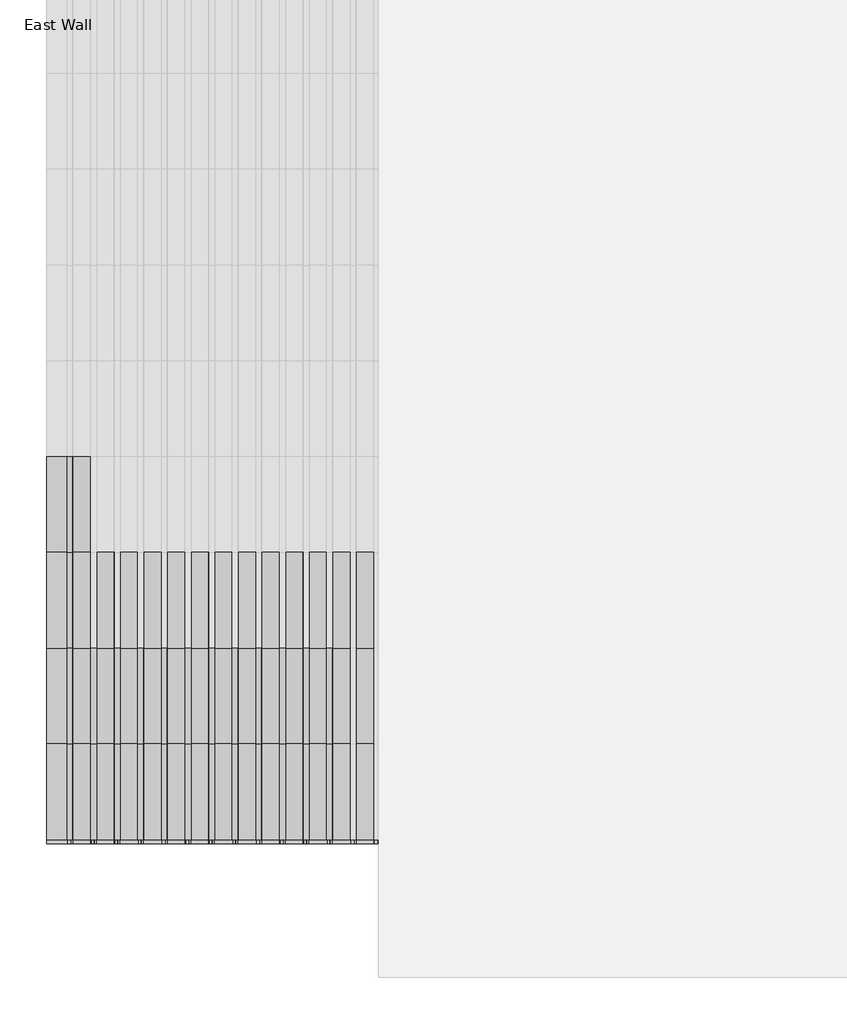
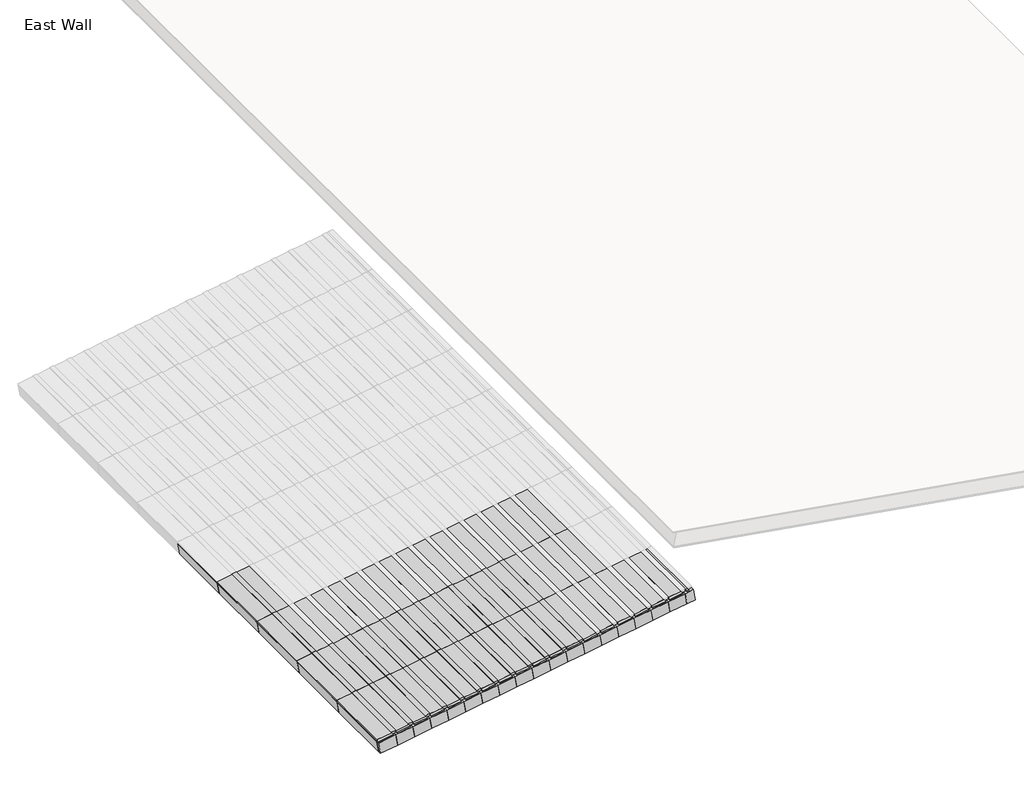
# One storey, part 1 of 5: 72 plates, 50 members.
"""IFC4 building model written with IfcOpenShell, lengths in millimetres."""

from ifc_helpers import new_model, si_unit, origin, place, context, project, spatial, transform, mapped, element, save
from components import rectangular_mullion_fascia_9a07afea, rectangular_mullion_fascia_2a1c65a7, rectangular_mullion_fascia_b76e3948, rectangular_mullion_wood_slats_095afc73, system_panel_empty_9ec88690, system_panel_empty_e91cd120, system_panel_empty_25c6223c, system_panel_empty_b4032a90, system_panel_empty_0b0c6d62, system_panel_empty_946fc833

model = new_model("IFC4")

# Units and contexts
model_context = context("Model", 3, world=origin())
ifc_project = project(units=[si_unit("LENGTHUNIT", "METRE", prefix="MILLI")], contexts=[model_context])

# Site, building, storey
site = spatial("IfcSite", under=ifc_project)
building = spatial("IfcBuilding", under=site)
storey = spatial("IfcBuildingStorey", under=building, Name="East Wall", Elevation=3657.6)

# Members
placement = place(None, origin())
rectangular_mullion_fascia_shape = rectangular_mullion_fascia_9a07afea(model_context)
element("IfcMember", 1, ObjectType="Rectangular Mullion : Fascia", at=placement, inside=storey, context=model_context, shape_type="MappedRepresentation", body=[
    mapped(rectangular_mullion_fascia_shape, transform((9705.6989802, 5896.6499281, 3044.5915776), x_axis=(-0.9863939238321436, 0.0, -0.16439898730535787), y_axis=(0.16439898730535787, 0.0, -0.9863939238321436), z_axis=(0.0, -1.0, 0.0))),
])
element("IfcMember", 2, ObjectType="Rectangular Mullion : Fascia", at=placement, inside=storey, context=model_context, shape_type="MappedRepresentation", body=[
    mapped(rectangular_mullion_fascia_shape, transform((9705.6989802, 5287.0499281, 3044.5915776), x_axis=(-0.9863939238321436, 0.0, -0.16439898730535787), y_axis=(0.16439898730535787, 0.0, -0.9863939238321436), z_axis=(0.0, -1.0, 0.0))),
])
element("IfcMember", 3, ObjectType="Rectangular Mullion : Fascia", at=placement, inside=storey, context=model_context, shape_type="MappedRepresentation", body=[
    mapped(rectangular_mullion_fascia_shape, transform((9705.6989802, 4677.4499281, 3044.5915776), x_axis=(-0.9863939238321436, 0.0, -0.16439898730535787), y_axis=(0.16439898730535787, 0.0, -0.9863939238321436), z_axis=(0.0, -1.0, 0.0))),
])
element("IfcMember", 4, ObjectType="Rectangular Mullion : Fascia", at=placement, inside=storey, context=model_context, shape_type="MappedRepresentation", body=[
    mapped(rectangular_mullion_fascia_shape, transform((9705.6989802, 4067.8499281, 3044.5915776), x_axis=(-0.9863939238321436, 0.0, -0.16439898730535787), y_axis=(0.16439898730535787, 0.0, -0.9863939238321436), z_axis=(0.0, -1.0, 0.0))),
])
element("IfcMember", 5, ObjectType="Rectangular Mullion : Fascia", at=placement, inside=storey, context=model_context, shape_type="MappedRepresentation", body=[
    mapped(rectangular_mullion_fascia_shape, transform((9705.6989802, 3458.2499281, 3044.5915776), x_axis=(-0.9863939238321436, 0.0, -0.16439898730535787), y_axis=(0.16439898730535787, 0.0, -0.9863939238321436), z_axis=(0.0, -1.0, 0.0))),
])
rectangular_mullion_fascia_2_shape = rectangular_mullion_fascia_2a1c65a7(model_context)
element("IfcMember", 6, ObjectType="Rectangular Mullion : Fascia", at=placement, inside=storey, context=model_context, shape_type="MappedRepresentation", body=[
    mapped(rectangular_mullion_fascia_2_shape, transform((9856.0254142, 3432.8499284, 3069.6459833), x_axis=(0.0, -1.0, 0.0), y_axis=(0.1643989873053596, 0.0, -0.9863939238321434), z_axis=(0.9863939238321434, 0.0, 0.1643989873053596))),
])
element("IfcMember", 7, ObjectType="Rectangular Mullion : Fascia", at=placement, inside=storey, context=model_context, shape_type="MappedRepresentation", body=[
    mapped(rectangular_mullion_fascia_2_shape, transform((10006.3518482, 3432.8499284, 3094.700389), x_axis=(0.0, -1.0, 0.0), y_axis=(0.164398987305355, 0.0, -0.9863939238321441), z_axis=(0.9863939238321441, 0.0, 0.164398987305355))),
])
element("IfcMember", 8, ObjectType="Rectangular Mullion : Fascia", at=placement, inside=storey, context=model_context, shape_type="MappedRepresentation", body=[
    mapped(rectangular_mullion_fascia_2_shape, transform((10156.6782822, 3432.8499284, 3119.7547946), x_axis=(0.0, -1.0, 0.0), y_axis=(0.16439898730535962, 0.0, -0.9863939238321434), z_axis=(0.9863939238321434, 0.0, 0.16439898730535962))),
])
element("IfcMember", 9, ObjectType="Rectangular Mullion : Fascia", at=placement, inside=storey, context=model_context, shape_type="MappedRepresentation", body=[
    mapped(rectangular_mullion_fascia_2_shape, transform((10307.0047162, 3432.8499284, 3144.8092003), x_axis=(0.0, -1.0, 0.0), y_axis=(0.16439898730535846, 0.0, -0.9863939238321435), z_axis=(0.9863939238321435, 0.0, 0.16439898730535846))),
])
element("IfcMember", 10, ObjectType="Rectangular Mullion : Fascia", at=placement, inside=storey, context=model_context, shape_type="MappedRepresentation", body=[
    mapped(rectangular_mullion_fascia_2_shape, transform((10457.3311502, 3432.8499284, 3169.863606), x_axis=(0.0, -1.0, 0.0), y_axis=(0.16439898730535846, 0.0, -0.9863939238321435), z_axis=(0.9863939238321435, 0.0, 0.16439898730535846))),
])
element("IfcMember", 11, ObjectType="Rectangular Mullion : Fascia", at=placement, inside=storey, context=model_context, shape_type="MappedRepresentation", body=[
    mapped(rectangular_mullion_fascia_2_shape, transform((10607.6575842, 3432.8499284, 3194.9180116), x_axis=(0.0, -1.0, 0.0), y_axis=(0.16439898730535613, 0.0, -0.9863939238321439), z_axis=(0.9863939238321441, 0.0, 0.16439898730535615))),
])
element("IfcMember", 12, ObjectType="Rectangular Mullion : Fascia", at=placement, inside=storey, context=model_context, shape_type="MappedRepresentation", body=[
    mapped(rectangular_mullion_fascia_2_shape, transform((10757.9840182, 3432.8499284, 3219.9724173), x_axis=(0.0, -1.0, 0.0), y_axis=(0.16439898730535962, 0.0, -0.9863939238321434), z_axis=(0.9863939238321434, 0.0, 0.16439898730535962))),
])
element("IfcMember", 13, ObjectType="Rectangular Mullion : Fascia", at=placement, inside=storey, context=model_context, shape_type="MappedRepresentation", body=[
    mapped(rectangular_mullion_fascia_2_shape, transform((10908.3104522, 3432.8499284, 3245.026823), x_axis=(0.0, -1.0, 0.0), y_axis=(0.164398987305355, 0.0, -0.9863939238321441), z_axis=(0.9863939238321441, 0.0, 0.164398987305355))),
])
element("IfcMember", 14, ObjectType="Rectangular Mullion : Fascia", at=placement, inside=storey, context=model_context, shape_type="MappedRepresentation", body=[
    mapped(rectangular_mullion_fascia_2_shape, transform((11058.6368862, 3432.8499284, 3270.0812286), x_axis=(0.0, -1.0, 0.0), y_axis=(0.16439898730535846, 0.0, -0.9863939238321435), z_axis=(0.9863939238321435, 0.0, 0.16439898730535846))),
])
element("IfcMember", 15, ObjectType="Rectangular Mullion : Fascia", at=placement, inside=storey, context=model_context, shape_type="MappedRepresentation", body=[
    mapped(rectangular_mullion_fascia_2_shape, transform((11208.9633201, 3432.8499284, 3295.1356343), x_axis=(0.0, -1.0, 0.0), y_axis=(0.16439898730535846, 0.0, -0.9863939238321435), z_axis=(0.9863939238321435, 0.0, 0.16439898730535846))),
])
element("IfcMember", 16, ObjectType="Rectangular Mullion : Fascia", at=placement, inside=storey, context=model_context, shape_type="MappedRepresentation", body=[
    mapped(rectangular_mullion_fascia_2_shape, transform((11359.2897541, 3432.8499284, 3320.19004), x_axis=(0.0, -1.0, 0.0), y_axis=(0.16439898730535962, 0.0, -0.9863939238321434), z_axis=(0.9863939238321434, 0.0, 0.16439898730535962))),
])
element("IfcMember", 17, ObjectType="Rectangular Mullion : Fascia", at=placement, inside=storey, context=model_context, shape_type="MappedRepresentation", body=[
    mapped(rectangular_mullion_fascia_2_shape, transform((11509.6161881, 3432.8499284, 3345.2444456), x_axis=(0.0, -1.0, 0.0), y_axis=(0.164398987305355, 0.0, -0.9863939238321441), z_axis=(0.9863939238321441, 0.0, 0.164398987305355))),
])
element("IfcMember", 18, ObjectType="Rectangular Mullion : Fascia", at=placement, inside=storey, context=model_context, shape_type="MappedRepresentation", body=[
    mapped(rectangular_mullion_fascia_2_shape, transform((11659.9426221, 3432.8499284, 3370.2988513), x_axis=(0.0, -1.0, 0.0), y_axis=(0.16439898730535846, 0.0, -0.9863939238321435), z_axis=(0.9863939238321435, 0.0, 0.16439898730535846))),
])
element("IfcMember", 19, ObjectType="Rectangular Mullion : Fascia", at=placement, inside=storey, context=model_context, shape_type="MappedRepresentation", body=[
    mapped(rectangular_mullion_fascia_2_shape, transform((11810.2690561, 3432.8499284, 3395.353257), x_axis=(0.0, -1.0, 0.0), y_axis=(0.16439898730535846, 0.0, -0.9863939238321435), z_axis=(0.9863939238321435, 0.0, 0.16439898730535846))),
])
element("IfcMember", 20, ObjectType="Rectangular Mullion : Fascia", at=placement, inside=storey, context=model_context, shape_type="MappedRepresentation", body=[
    mapped(rectangular_mullion_fascia_2_shape, transform((11960.5954901, 3432.8499284, 3420.4076626), x_axis=(0.0, -1.0, 0.0), y_axis=(0.16439898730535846, 0.0, -0.9863939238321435), z_axis=(0.9863939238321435, 0.0, 0.16439898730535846))),
])
element("IfcMember", 21, ObjectType="Rectangular Mullion : Fascia", at=placement, inside=storey, context=model_context, shape_type="MappedRepresentation", body=[
    mapped(rectangular_mullion_fascia_2_shape, transform((12110.9219241, 3432.8499284, 3445.4620683), x_axis=(0.0, -1.0, 0.0), y_axis=(0.16439898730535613, 0.0, -0.9863939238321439), z_axis=(0.9863939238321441, 0.0, 0.16439898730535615))),
])
element("IfcMember", 22, ObjectType="Rectangular Mullion : Fascia", at=placement, inside=storey, context=model_context, shape_type="MappedRepresentation", body=[
    mapped(rectangular_mullion_fascia_2_shape, transform((12261.2483581, 3432.8499284, 3470.516474), x_axis=(0.0, -1.0, 0.0), y_axis=(0.16439898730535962, 0.0, -0.9863939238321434), z_axis=(0.9863939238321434, 0.0, 0.16439898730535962))),
])
element("IfcMember", 23, ObjectType="Rectangular Mullion : Fascia", at=placement, inside=storey, context=model_context, shape_type="MappedRepresentation", body=[
    mapped(rectangular_mullion_fascia_2_shape, transform((12411.5747921, 3432.8499284, 3495.5708796), x_axis=(0.0, -1.0, 0.0), y_axis=(0.16439898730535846, 0.0, -0.9863939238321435), z_axis=(0.9863939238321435, 0.0, 0.16439898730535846))),
])
rectangular_mullion_fascia_3_shape = rectangular_mullion_fascia_b76e3948(model_context)
element("IfcMember", 24, ObjectType="Rectangular Mullion : Fascia", at=placement, inside=storey, context=model_context, shape_type="MappedRepresentation", body=[
    mapped(rectangular_mullion_fascia_3_shape, transform((12485.7750833, 3432.8499284, 3507.9375948), x_axis=(0.0, -1.0, 0.0), y_axis=(0.1643989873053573, 0.0, -0.9863939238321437), z_axis=(0.9863939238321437, 0.0, 0.1643989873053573))),
])
rectangular_mullion_wood_slats_shape = rectangular_mullion_wood_slats_095afc73(model_context)
element("IfcMember", 25, ObjectType="Rectangular Mullion : Wood Slats", at=placement, inside=storey, context=model_context, shape_type="MappedRepresentation", body=[
    mapped(rectangular_mullion_wood_slats_shape, transform((9856.0254142, 5896.6499281, 3069.6459833), x_axis=(0.9863939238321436, 0.0, 0.16439898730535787), y_axis=(0.16439898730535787, 0.0, -0.9863939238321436), z_axis=(0.0, 1.0, 0.0))),
])
element("IfcMember", 26, ObjectType="Rectangular Mullion : Wood Slats", at=placement, inside=storey, context=model_context, shape_type="MappedRepresentation", body=[
    mapped(rectangular_mullion_wood_slats_shape, transform((9856.0254142, 5287.0499281, 3069.6459833), x_axis=(0.9863939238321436, 0.0, 0.16439898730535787), y_axis=(0.16439898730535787, 0.0, -0.9863939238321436), z_axis=(0.0, 1.0, 0.0))),
])
element("IfcMember", 27, ObjectType="Rectangular Mullion : Wood Slats", at=placement, inside=storey, context=model_context, shape_type="MappedRepresentation", body=[
    mapped(rectangular_mullion_wood_slats_shape, transform((9856.0254142, 4677.4499281, 3069.6459833), x_axis=(0.9863939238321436, 0.0, 0.16439898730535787), y_axis=(0.16439898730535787, 0.0, -0.9863939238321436), z_axis=(0.0, 1.0, 0.0))),
])
element("IfcMember", 28, ObjectType="Rectangular Mullion : Wood Slats", at=placement, inside=storey, context=model_context, shape_type="MappedRepresentation", body=[
    mapped(rectangular_mullion_wood_slats_shape, transform((9856.0254142, 4067.8499281, 3069.6459833), x_axis=(0.9863939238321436, 0.0, 0.16439898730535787), y_axis=(0.16439898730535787, 0.0, -0.9863939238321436), z_axis=(0.0, 1.0, 0.0))),
])
element("IfcMember", 29, ObjectType="Rectangular Mullion : Wood Slats", at=placement, inside=storey, context=model_context, shape_type="MappedRepresentation", body=[
    mapped(rectangular_mullion_wood_slats_shape, transform((10006.3518482, 4677.4499281, 3094.700389), x_axis=(0.9863939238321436, 0.0, 0.16439898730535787), y_axis=(0.16439898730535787, 0.0, -0.9863939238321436), z_axis=(0.0, 1.0, 0.0))),
])
element("IfcMember", 30, ObjectType="Rectangular Mullion : Wood Slats", at=placement, inside=storey, context=model_context, shape_type="MappedRepresentation", body=[
    mapped(rectangular_mullion_wood_slats_shape, transform((10006.3518482, 4067.8499281, 3094.700389), x_axis=(0.9863939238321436, 0.0, 0.16439898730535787), y_axis=(0.16439898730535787, 0.0, -0.9863939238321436), z_axis=(0.0, 1.0, 0.0))),
])
element("IfcMember", 31, ObjectType="Rectangular Mullion : Wood Slats", at=placement, inside=storey, context=model_context, shape_type="MappedRepresentation", body=[
    mapped(rectangular_mullion_wood_slats_shape, transform((10156.6782822, 4677.4499281, 3119.7547946), x_axis=(0.9863939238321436, 0.0, 0.16439898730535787), y_axis=(0.16439898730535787, 0.0, -0.9863939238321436), z_axis=(0.0, 1.0, 0.0))),
])
element("IfcMember", 32, ObjectType="Rectangular Mullion : Wood Slats", at=placement, inside=storey, context=model_context, shape_type="MappedRepresentation", body=[
    mapped(rectangular_mullion_wood_slats_shape, transform((10156.6782822, 4067.8499281, 3119.7547946), x_axis=(0.9863939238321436, 0.0, 0.16439898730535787), y_axis=(0.16439898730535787, 0.0, -0.9863939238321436), z_axis=(0.0, 1.0, 0.0))),
])
element("IfcMember", 33, ObjectType="Rectangular Mullion : Wood Slats", at=placement, inside=storey, context=model_context, shape_type="MappedRepresentation", body=[
    mapped(rectangular_mullion_wood_slats_shape, transform((10307.0047162, 4677.4499281, 3144.8092003), x_axis=(0.9863939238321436, 0.0, 0.16439898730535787), y_axis=(0.16439898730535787, 0.0, -0.9863939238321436), z_axis=(0.0, 1.0, 0.0))),
])
element("IfcMember", 34, ObjectType="Rectangular Mullion : Wood Slats", at=placement, inside=storey, context=model_context, shape_type="MappedRepresentation", body=[
    mapped(rectangular_mullion_wood_slats_shape, transform((10307.0047162, 4067.8499281, 3144.8092003), x_axis=(0.9863939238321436, 0.0, 0.16439898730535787), y_axis=(0.16439898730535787, 0.0, -0.9863939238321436), z_axis=(0.0, 1.0, 0.0))),
])
element("IfcMember", 35, ObjectType="Rectangular Mullion : Wood Slats", at=placement, inside=storey, context=model_context, shape_type="MappedRepresentation", body=[
    mapped(rectangular_mullion_wood_slats_shape, transform((10457.3311502, 4677.4499281, 3169.863606), x_axis=(0.9863939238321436, 0.0, 0.16439898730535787), y_axis=(0.16439898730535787, 0.0, -0.9863939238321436), z_axis=(0.0, 1.0, 0.0))),
])
element("IfcMember", 36, ObjectType="Rectangular Mullion : Wood Slats", at=placement, inside=storey, context=model_context, shape_type="MappedRepresentation", body=[
    mapped(rectangular_mullion_wood_slats_shape, transform((10457.3311502, 4067.8499281, 3169.863606), x_axis=(0.9863939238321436, 0.0, 0.16439898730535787), y_axis=(0.16439898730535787, 0.0, -0.9863939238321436), z_axis=(0.0, 1.0, 0.0))),
])
element("IfcMember", 37, ObjectType="Rectangular Mullion : Wood Slats", at=placement, inside=storey, context=model_context, shape_type="MappedRepresentation", body=[
    mapped(rectangular_mullion_wood_slats_shape, transform((10607.6575842, 4677.4499281, 3194.9180116), x_axis=(0.9863939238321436, 0.0, 0.16439898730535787), y_axis=(0.16439898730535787, 0.0, -0.9863939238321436), z_axis=(0.0, 1.0, 0.0))),
])
element("IfcMember", 38, ObjectType="Rectangular Mullion : Wood Slats", at=placement, inside=storey, context=model_context, shape_type="MappedRepresentation", body=[
    mapped(rectangular_mullion_wood_slats_shape, transform((10607.6575842, 4067.8499281, 3194.9180116), x_axis=(0.9863939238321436, 0.0, 0.16439898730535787), y_axis=(0.16439898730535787, 0.0, -0.9863939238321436), z_axis=(0.0, 1.0, 0.0))),
])
element("IfcMember", 39, ObjectType="Rectangular Mullion : Wood Slats", at=placement, inside=storey, context=model_context, shape_type="MappedRepresentation", body=[
    mapped(rectangular_mullion_wood_slats_shape, transform((10757.9840182, 4677.4499281, 3219.9724173), x_axis=(0.9863939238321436, 0.0, 0.16439898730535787), y_axis=(0.16439898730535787, 0.0, -0.9863939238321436), z_axis=(0.0, 1.0, 0.0))),
])
element("IfcMember", 40, ObjectType="Rectangular Mullion : Wood Slats", at=placement, inside=storey, context=model_context, shape_type="MappedRepresentation", body=[
    mapped(rectangular_mullion_wood_slats_shape, transform((10757.9840182, 4067.8499281, 3219.9724173), x_axis=(0.9863939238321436, 0.0, 0.16439898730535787), y_axis=(0.16439898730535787, 0.0, -0.9863939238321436), z_axis=(0.0, 1.0, 0.0))),
])
element("IfcMember", 41, ObjectType="Rectangular Mullion : Wood Slats", at=placement, inside=storey, context=model_context, shape_type="MappedRepresentation", body=[
    mapped(rectangular_mullion_wood_slats_shape, transform((10908.3104522, 4677.4499281, 3245.026823), x_axis=(0.9863939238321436, 0.0, 0.16439898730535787), y_axis=(0.16439898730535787, 0.0, -0.9863939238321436), z_axis=(0.0, 1.0, 0.0))),
])
element("IfcMember", 42, ObjectType="Rectangular Mullion : Wood Slats", at=placement, inside=storey, context=model_context, shape_type="MappedRepresentation", body=[
    mapped(rectangular_mullion_wood_slats_shape, transform((10908.3104522, 4067.8499281, 3245.026823), x_axis=(0.9863939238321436, 0.0, 0.16439898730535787), y_axis=(0.16439898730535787, 0.0, -0.9863939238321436), z_axis=(0.0, 1.0, 0.0))),
])
element("IfcMember", 43, ObjectType="Rectangular Mullion : Wood Slats", at=placement, inside=storey, context=model_context, shape_type="MappedRepresentation", body=[
    mapped(rectangular_mullion_wood_slats_shape, transform((11058.6368862, 4677.4499281, 3270.0812286), x_axis=(0.9863939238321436, 0.0, 0.16439898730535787), y_axis=(0.16439898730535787, 0.0, -0.9863939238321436), z_axis=(0.0, 1.0, 0.0))),
])
element("IfcMember", 44, ObjectType="Rectangular Mullion : Wood Slats", at=placement, inside=storey, context=model_context, shape_type="MappedRepresentation", body=[
    mapped(rectangular_mullion_wood_slats_shape, transform((11058.6368862, 4067.8499281, 3270.0812286), x_axis=(0.9863939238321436, 0.0, 0.16439898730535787), y_axis=(0.16439898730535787, 0.0, -0.9863939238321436), z_axis=(0.0, 1.0, 0.0))),
])
element("IfcMember", 45, ObjectType="Rectangular Mullion : Wood Slats", at=placement, inside=storey, context=model_context, shape_type="MappedRepresentation", body=[
    mapped(rectangular_mullion_wood_slats_shape, transform((11208.9633201, 4677.4499281, 3295.1356343), x_axis=(0.9863939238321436, 0.0, 0.16439898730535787), y_axis=(0.16439898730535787, 0.0, -0.9863939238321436), z_axis=(0.0, 1.0, 0.0))),
])
element("IfcMember", 46, ObjectType="Rectangular Mullion : Wood Slats", at=placement, inside=storey, context=model_context, shape_type="MappedRepresentation", body=[
    mapped(rectangular_mullion_wood_slats_shape, transform((11208.9633201, 4067.8499281, 3295.1356343), x_axis=(0.9863939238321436, 0.0, 0.16439898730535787), y_axis=(0.16439898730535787, 0.0, -0.9863939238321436), z_axis=(0.0, 1.0, 0.0))),
])
element("IfcMember", 47, ObjectType="Rectangular Mullion : Wood Slats", at=placement, inside=storey, context=model_context, shape_type="MappedRepresentation", body=[
    mapped(rectangular_mullion_wood_slats_shape, transform((11359.2897541, 4677.4499281, 3320.19004), x_axis=(0.9863939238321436, 0.0, 0.16439898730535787), y_axis=(0.16439898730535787, 0.0, -0.9863939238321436), z_axis=(0.0, 1.0, 0.0))),
])
element("IfcMember", 48, ObjectType="Rectangular Mullion : Wood Slats", at=placement, inside=storey, context=model_context, shape_type="MappedRepresentation", body=[
    mapped(rectangular_mullion_wood_slats_shape, transform((11359.2897541, 4067.8499281, 3320.19004), x_axis=(0.9863939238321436, 0.0, 0.16439898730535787), y_axis=(0.16439898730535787, 0.0, -0.9863939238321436), z_axis=(0.0, 1.0, 0.0))),
])
element("IfcMember", 49, ObjectType="Rectangular Mullion : Wood Slats", at=placement, inside=storey, context=model_context, shape_type="MappedRepresentation", body=[
    mapped(rectangular_mullion_wood_slats_shape, transform((11509.6161881, 4677.4499281, 3345.2444456), x_axis=(0.9863939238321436, 0.0, 0.16439898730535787), y_axis=(0.16439898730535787, 0.0, -0.9863939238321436), z_axis=(0.0, 1.0, 0.0))),
])
element("IfcMember", 50, ObjectType="Rectangular Mullion : Wood Slats", at=placement, inside=storey, context=model_context, shape_type="MappedRepresentation", body=[
    mapped(rectangular_mullion_wood_slats_shape, transform((11509.6161881, 4067.8499281, 3345.2444456), x_axis=(0.9863939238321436, 0.0, 0.16439898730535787), y_axis=(0.16439898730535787, 0.0, -0.9863939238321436), z_axis=(0.0, 1.0, 0.0))),
])

# Plates
system_panel_empty_shape = system_panel_empty_9ec88690(model_context)
element("IfcPlate", 51, ObjectType="System Panel : Empty", at=placement, inside=storey, context=model_context, shape_type="MappedRepresentation", body=[
    mapped(system_panel_empty_shape, transform((9874.8162185, 5591.8499281, 3072.777784), x_axis=(0.0, -1.0, 0.0), y_axis=(0.16439898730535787, 0.0, -0.9863939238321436), z_axis=(0.9863939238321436, 0.0, 0.16439898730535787))),
])
element("IfcPlate", 52, ObjectType="System Panel : Empty", at=placement, inside=storey, context=model_context, shape_type="MappedRepresentation", body=[
    mapped(system_panel_empty_shape, transform((9874.8162185, 4982.2499281, 3072.777784), x_axis=(0.0, -1.0, 0.0), y_axis=(0.16439898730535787, 0.0, -0.9863939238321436), z_axis=(0.9863939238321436, 0.0, 0.16439898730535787))),
])
element("IfcPlate", 53, ObjectType="System Panel : Empty", at=placement, inside=storey, context=model_context, shape_type="MappedRepresentation", body=[
    mapped(system_panel_empty_shape, transform((9874.8162185, 4372.6499281, 3072.777784), x_axis=(0.0, -1.0, 0.0), y_axis=(0.16439898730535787, 0.0, -0.9863939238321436), z_axis=(0.9863939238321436, 0.0, 0.16439898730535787))),
])
element("IfcPlate", 54, ObjectType="System Panel : Empty", at=placement, inside=storey, context=model_context, shape_type="MappedRepresentation", body=[
    mapped(system_panel_empty_shape, transform((9874.8162185, 3763.0499281, 3072.777784), x_axis=(0.0, -1.0, 0.0), y_axis=(0.16439898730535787, 0.0, -0.9863939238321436), z_axis=(0.9863939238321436, 0.0, 0.16439898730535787))),
])
element("IfcPlate", 55, ObjectType="System Panel : Empty", at=placement, inside=storey, context=model_context, shape_type="MappedRepresentation", body=[
    mapped(system_panel_empty_shape, transform((10025.1426525, 4982.2499281, 3097.8321897), x_axis=(0.0, -1.0, 0.0), y_axis=(0.16439898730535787, 0.0, -0.9863939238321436), z_axis=(0.9863939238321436, 0.0, 0.16439898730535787))),
])
element("IfcPlate", 56, ObjectType="System Panel : Empty", at=placement, inside=storey, context=model_context, shape_type="MappedRepresentation", body=[
    mapped(system_panel_empty_shape, transform((10025.1426525, 4372.6499281, 3097.8321897), x_axis=(0.0, -1.0, 0.0), y_axis=(0.16439898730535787, 0.0, -0.9863939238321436), z_axis=(0.9863939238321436, 0.0, 0.16439898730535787))),
])
element("IfcPlate", 57, ObjectType="System Panel : Empty", at=placement, inside=storey, context=model_context, shape_type="MappedRepresentation", body=[
    mapped(system_panel_empty_shape, transform((10025.1426525, 3763.0499281, 3097.8321897), x_axis=(0.0, -1.0, 0.0), y_axis=(0.16439898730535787, 0.0, -0.9863939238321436), z_axis=(0.9863939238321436, 0.0, 0.16439898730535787))),
])
element("IfcPlate", 58, ObjectType="System Panel : Empty", at=placement, inside=storey, context=model_context, shape_type="MappedRepresentation", body=[
    mapped(system_panel_empty_shape, transform((10175.4690865, 4982.2499281, 3122.8865954), x_axis=(0.0, -1.0, 0.0), y_axis=(0.16439898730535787, 0.0, -0.9863939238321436), z_axis=(0.9863939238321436, 0.0, 0.16439898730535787))),
])
element("IfcPlate", 59, ObjectType="System Panel : Empty", at=placement, inside=storey, context=model_context, shape_type="MappedRepresentation", body=[
    mapped(system_panel_empty_shape, transform((10175.4690865, 4372.6499281, 3122.8865954), x_axis=(0.0, -1.0, 0.0), y_axis=(0.16439898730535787, 0.0, -0.9863939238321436), z_axis=(0.9863939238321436, 0.0, 0.16439898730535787))),
])
element("IfcPlate", 60, ObjectType="System Panel : Empty", at=placement, inside=storey, context=model_context, shape_type="MappedRepresentation", body=[
    mapped(system_panel_empty_shape, transform((10175.4690865, 3763.0499281, 3122.8865954), x_axis=(0.0, -1.0, 0.0), y_axis=(0.16439898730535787, 0.0, -0.9863939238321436), z_axis=(0.9863939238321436, 0.0, 0.16439898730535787))),
])
element("IfcPlate", 61, ObjectType="System Panel : Empty", at=placement, inside=storey, context=model_context, shape_type="MappedRepresentation", body=[
    mapped(system_panel_empty_shape, transform((10325.7955204, 4982.2499281, 3147.941001), x_axis=(0.0, -1.0, 0.0), y_axis=(0.16439898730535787, 0.0, -0.9863939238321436), z_axis=(0.9863939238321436, 0.0, 0.16439898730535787))),
])
element("IfcPlate", 62, ObjectType="System Panel : Empty", at=placement, inside=storey, context=model_context, shape_type="MappedRepresentation", body=[
    mapped(system_panel_empty_shape, transform((10325.7955204, 4372.6499281, 3147.941001), x_axis=(0.0, -1.0, 0.0), y_axis=(0.16439898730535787, 0.0, -0.9863939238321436), z_axis=(0.9863939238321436, 0.0, 0.16439898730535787))),
])
element("IfcPlate", 63, ObjectType="System Panel : Empty", at=placement, inside=storey, context=model_context, shape_type="MappedRepresentation", body=[
    mapped(system_panel_empty_shape, transform((10325.7955204, 3763.0499281, 3147.941001), x_axis=(0.0, -1.0, 0.0), y_axis=(0.16439898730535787, 0.0, -0.9863939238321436), z_axis=(0.9863939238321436, 0.0, 0.16439898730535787))),
])
element("IfcPlate", 64, ObjectType="System Panel : Empty", at=placement, inside=storey, context=model_context, shape_type="MappedRepresentation", body=[
    mapped(system_panel_empty_shape, transform((10476.1219544, 4982.2499281, 3172.9954067), x_axis=(0.0, -1.0, 0.0), y_axis=(0.16439898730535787, 0.0, -0.9863939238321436), z_axis=(0.9863939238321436, 0.0, 0.16439898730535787))),
])
element("IfcPlate", 65, ObjectType="System Panel : Empty", at=placement, inside=storey, context=model_context, shape_type="MappedRepresentation", body=[
    mapped(system_panel_empty_shape, transform((10476.1219544, 4372.6499281, 3172.9954067), x_axis=(0.0, -1.0, 0.0), y_axis=(0.16439898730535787, 0.0, -0.9863939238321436), z_axis=(0.9863939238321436, 0.0, 0.16439898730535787))),
])
element("IfcPlate", 66, ObjectType="System Panel : Empty", at=placement, inside=storey, context=model_context, shape_type="MappedRepresentation", body=[
    mapped(system_panel_empty_shape, transform((10476.1219544, 3763.0499281, 3172.9954067), x_axis=(0.0, -1.0, 0.0), y_axis=(0.16439898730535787, 0.0, -0.9863939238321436), z_axis=(0.9863939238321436, 0.0, 0.16439898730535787))),
])
element("IfcPlate", 67, ObjectType="System Panel : Empty", at=placement, inside=storey, context=model_context, shape_type="MappedRepresentation", body=[
    mapped(system_panel_empty_shape, transform((10626.4483884, 4982.2499281, 3198.0498123), x_axis=(0.0, -1.0, 0.0), y_axis=(0.16439898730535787, 0.0, -0.9863939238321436), z_axis=(0.9863939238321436, 0.0, 0.16439898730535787))),
])
element("IfcPlate", 68, ObjectType="System Panel : Empty", at=placement, inside=storey, context=model_context, shape_type="MappedRepresentation", body=[
    mapped(system_panel_empty_shape, transform((10626.4483884, 4372.6499281, 3198.0498123), x_axis=(0.0, -1.0, 0.0), y_axis=(0.16439898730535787, 0.0, -0.9863939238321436), z_axis=(0.9863939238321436, 0.0, 0.16439898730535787))),
])
element("IfcPlate", 69, ObjectType="System Panel : Empty", at=placement, inside=storey, context=model_context, shape_type="MappedRepresentation", body=[
    mapped(system_panel_empty_shape, transform((10626.4483884, 3763.0499281, 3198.0498123), x_axis=(0.0, -1.0, 0.0), y_axis=(0.16439898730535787, 0.0, -0.9863939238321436), z_axis=(0.9863939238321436, 0.0, 0.16439898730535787))),
])
element("IfcPlate", 70, ObjectType="System Panel : Empty", at=placement, inside=storey, context=model_context, shape_type="MappedRepresentation", body=[
    mapped(system_panel_empty_shape, transform((10776.7748224, 4982.2499281, 3223.104218), x_axis=(0.0, -1.0, 0.0), y_axis=(0.16439898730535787, 0.0, -0.9863939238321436), z_axis=(0.9863939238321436, 0.0, 0.16439898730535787))),
])
element("IfcPlate", 71, ObjectType="System Panel : Empty", at=placement, inside=storey, context=model_context, shape_type="MappedRepresentation", body=[
    mapped(system_panel_empty_shape, transform((10776.7748224, 4372.6499281, 3223.104218), x_axis=(0.0, -1.0, 0.0), y_axis=(0.16439898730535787, 0.0, -0.9863939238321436), z_axis=(0.9863939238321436, 0.0, 0.16439898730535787))),
])
element("IfcPlate", 72, ObjectType="System Panel : Empty", at=placement, inside=storey, context=model_context, shape_type="MappedRepresentation", body=[
    mapped(system_panel_empty_shape, transform((10776.7748224, 3763.0499281, 3223.104218), x_axis=(0.0, -1.0, 0.0), y_axis=(0.16439898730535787, 0.0, -0.9863939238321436), z_axis=(0.9863939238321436, 0.0, 0.16439898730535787))),
])
element("IfcPlate", 73, ObjectType="System Panel : Empty", at=placement, inside=storey, context=model_context, shape_type="MappedRepresentation", body=[
    mapped(system_panel_empty_shape, transform((10927.1012564, 4982.2499281, 3248.1586237), x_axis=(0.0, -1.0, 0.0), y_axis=(0.16439898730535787, 0.0, -0.9863939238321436), z_axis=(0.9863939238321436, 0.0, 0.16439898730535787))),
])
element("IfcPlate", 74, ObjectType="System Panel : Empty", at=placement, inside=storey, context=model_context, shape_type="MappedRepresentation", body=[
    mapped(system_panel_empty_shape, transform((10927.1012564, 4372.6499281, 3248.1586237), x_axis=(0.0, -1.0, 0.0), y_axis=(0.16439898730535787, 0.0, -0.9863939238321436), z_axis=(0.9863939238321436, 0.0, 0.16439898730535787))),
])
element("IfcPlate", 75, ObjectType="System Panel : Empty", at=placement, inside=storey, context=model_context, shape_type="MappedRepresentation", body=[
    mapped(system_panel_empty_shape, transform((10927.1012564, 3763.0499281, 3248.1586237), x_axis=(0.0, -1.0, 0.0), y_axis=(0.16439898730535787, 0.0, -0.9863939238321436), z_axis=(0.9863939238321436, 0.0, 0.16439898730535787))),
])
element("IfcPlate", 76, ObjectType="System Panel : Empty", at=placement, inside=storey, context=model_context, shape_type="MappedRepresentation", body=[
    mapped(system_panel_empty_shape, transform((11077.4276904, 4982.2499281, 3273.2130293), x_axis=(0.0, -1.0, 0.0), y_axis=(0.16439898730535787, 0.0, -0.9863939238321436), z_axis=(0.9863939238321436, 0.0, 0.16439898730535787))),
])
element("IfcPlate", 77, ObjectType="System Panel : Empty", at=placement, inside=storey, context=model_context, shape_type="MappedRepresentation", body=[
    mapped(system_panel_empty_shape, transform((11077.4276904, 4372.6499281, 3273.2130293), x_axis=(0.0, -1.0, 0.0), y_axis=(0.16439898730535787, 0.0, -0.9863939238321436), z_axis=(0.9863939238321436, 0.0, 0.16439898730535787))),
])
element("IfcPlate", 78, ObjectType="System Panel : Empty", at=placement, inside=storey, context=model_context, shape_type="MappedRepresentation", body=[
    mapped(system_panel_empty_shape, transform((11077.4276904, 3763.0499281, 3273.2130293), x_axis=(0.0, -1.0, 0.0), y_axis=(0.16439898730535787, 0.0, -0.9863939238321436), z_axis=(0.9863939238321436, 0.0, 0.16439898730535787))),
])
element("IfcPlate", 79, ObjectType="System Panel : Empty", at=placement, inside=storey, context=model_context, shape_type="MappedRepresentation", body=[
    mapped(system_panel_empty_shape, transform((11227.7541244, 4982.2499281, 3298.267435), x_axis=(0.0, -1.0, 0.0), y_axis=(0.16439898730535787, 0.0, -0.9863939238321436), z_axis=(0.9863939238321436, 0.0, 0.16439898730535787))),
])
element("IfcPlate", 80, ObjectType="System Panel : Empty", at=placement, inside=storey, context=model_context, shape_type="MappedRepresentation", body=[
    mapped(system_panel_empty_shape, transform((11227.7541244, 4372.6499281, 3298.267435), x_axis=(0.0, -1.0, 0.0), y_axis=(0.16439898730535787, 0.0, -0.9863939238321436), z_axis=(0.9863939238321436, 0.0, 0.16439898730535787))),
])
element("IfcPlate", 81, ObjectType="System Panel : Empty", at=placement, inside=storey, context=model_context, shape_type="MappedRepresentation", body=[
    mapped(system_panel_empty_shape, transform((11227.7541244, 3763.0499281, 3298.267435), x_axis=(0.0, -1.0, 0.0), y_axis=(0.16439898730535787, 0.0, -0.9863939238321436), z_axis=(0.9863939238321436, 0.0, 0.16439898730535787))),
])
element("IfcPlate", 82, ObjectType="System Panel : Empty", at=placement, inside=storey, context=model_context, shape_type="MappedRepresentation", body=[
    mapped(system_panel_empty_shape, transform((11378.0805584, 4982.2499281, 3323.3218407), x_axis=(0.0, -1.0, 0.0), y_axis=(0.16439898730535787, 0.0, -0.9863939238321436), z_axis=(0.9863939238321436, 0.0, 0.16439898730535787))),
])
element("IfcPlate", 83, ObjectType="System Panel : Empty", at=placement, inside=storey, context=model_context, shape_type="MappedRepresentation", body=[
    mapped(system_panel_empty_shape, transform((11378.0805584, 4372.6499281, 3323.3218407), x_axis=(0.0, -1.0, 0.0), y_axis=(0.16439898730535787, 0.0, -0.9863939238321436), z_axis=(0.9863939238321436, 0.0, 0.16439898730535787))),
])
element("IfcPlate", 84, ObjectType="System Panel : Empty", at=placement, inside=storey, context=model_context, shape_type="MappedRepresentation", body=[
    mapped(system_panel_empty_shape, transform((11378.0805584, 3763.0499281, 3323.3218407), x_axis=(0.0, -1.0, 0.0), y_axis=(0.16439898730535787, 0.0, -0.9863939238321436), z_axis=(0.9863939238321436, 0.0, 0.16439898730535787))),
])
element("IfcPlate", 85, ObjectType="System Panel : Empty", at=placement, inside=storey, context=model_context, shape_type="MappedRepresentation", body=[
    mapped(system_panel_empty_shape, transform((11528.4069924, 4982.2499281, 3348.3762463), x_axis=(0.0, -1.0, 0.0), y_axis=(0.16439898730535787, 0.0, -0.9863939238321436), z_axis=(0.9863939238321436, 0.0, 0.16439898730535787))),
])
element("IfcPlate", 86, ObjectType="System Panel : Empty", at=placement, inside=storey, context=model_context, shape_type="MappedRepresentation", body=[
    mapped(system_panel_empty_shape, transform((11528.4069924, 4372.6499281, 3348.3762463), x_axis=(0.0, -1.0, 0.0), y_axis=(0.16439898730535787, 0.0, -0.9863939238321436), z_axis=(0.9863939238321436, 0.0, 0.16439898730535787))),
])
element("IfcPlate", 87, ObjectType="System Panel : Empty", at=placement, inside=storey, context=model_context, shape_type="MappedRepresentation", body=[
    mapped(system_panel_empty_shape, transform((11528.4069924, 3763.0499281, 3348.3762463), x_axis=(0.0, -1.0, 0.0), y_axis=(0.16439898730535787, 0.0, -0.9863939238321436), z_axis=(0.9863939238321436, 0.0, 0.16439898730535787))),
])
element("IfcPlate", 88, ObjectType="System Panel : Empty", at=placement, inside=storey, context=model_context, shape_type="MappedRepresentation", body=[
    mapped(system_panel_empty_shape, transform((11678.7334264, 4982.2499281, 3373.430652), x_axis=(0.0, -1.0, 0.0), y_axis=(0.16439898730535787, 0.0, -0.9863939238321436), z_axis=(0.9863939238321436, 0.0, 0.16439898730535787))),
])
element("IfcPlate", 89, ObjectType="System Panel : Empty", at=placement, inside=storey, context=model_context, shape_type="MappedRepresentation", body=[
    mapped(system_panel_empty_shape, transform((11678.7334264, 4372.6499281, 3373.430652), x_axis=(0.0, -1.0, 0.0), y_axis=(0.16439898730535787, 0.0, -0.9863939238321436), z_axis=(0.9863939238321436, 0.0, 0.16439898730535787))),
])
element("IfcPlate", 90, ObjectType="System Panel : Empty", at=placement, inside=storey, context=model_context, shape_type="MappedRepresentation", body=[
    mapped(system_panel_empty_shape, transform((11678.7334264, 3763.0499281, 3373.430652), x_axis=(0.0, -1.0, 0.0), y_axis=(0.16439898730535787, 0.0, -0.9863939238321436), z_axis=(0.9863939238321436, 0.0, 0.16439898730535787))),
])
element("IfcPlate", 91, ObjectType="System Panel : Empty", at=placement, inside=storey, context=model_context, shape_type="MappedRepresentation", body=[
    mapped(system_panel_empty_shape, transform((11829.0598604, 4982.2499281, 3398.4850577), x_axis=(0.0, -1.0, 0.0), y_axis=(0.16439898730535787, 0.0, -0.9863939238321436), z_axis=(0.9863939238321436, 0.0, 0.16439898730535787))),
])
element("IfcPlate", 92, ObjectType="System Panel : Empty", at=placement, inside=storey, context=model_context, shape_type="MappedRepresentation", body=[
    mapped(system_panel_empty_shape, transform((11829.0598604, 4372.6499281, 3398.4850577), x_axis=(0.0, -1.0, 0.0), y_axis=(0.16439898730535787, 0.0, -0.9863939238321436), z_axis=(0.9863939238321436, 0.0, 0.16439898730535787))),
])
element("IfcPlate", 93, ObjectType="System Panel : Empty", at=placement, inside=storey, context=model_context, shape_type="MappedRepresentation", body=[
    mapped(system_panel_empty_shape, transform((11829.0598604, 3763.0499281, 3398.4850577), x_axis=(0.0, -1.0, 0.0), y_axis=(0.16439898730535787, 0.0, -0.9863939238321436), z_axis=(0.9863939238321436, 0.0, 0.16439898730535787))),
])
element("IfcPlate", 94, ObjectType="System Panel : Empty", at=placement, inside=storey, context=model_context, shape_type="MappedRepresentation", body=[
    mapped(system_panel_empty_shape, transform((11979.3862944, 4982.2499281, 3423.5394633), x_axis=(0.0, -1.0, 0.0), y_axis=(0.16439898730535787, 0.0, -0.9863939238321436), z_axis=(0.9863939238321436, 0.0, 0.16439898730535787))),
])
element("IfcPlate", 95, ObjectType="System Panel : Empty", at=placement, inside=storey, context=model_context, shape_type="MappedRepresentation", body=[
    mapped(system_panel_empty_shape, transform((11979.3862944, 4372.6499281, 3423.5394633), x_axis=(0.0, -1.0, 0.0), y_axis=(0.16439898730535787, 0.0, -0.9863939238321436), z_axis=(0.9863939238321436, 0.0, 0.16439898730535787))),
])
element("IfcPlate", 96, ObjectType="System Panel : Empty", at=placement, inside=storey, context=model_context, shape_type="MappedRepresentation", body=[
    mapped(system_panel_empty_shape, transform((11979.3862944, 3763.0499281, 3423.5394633), x_axis=(0.0, -1.0, 0.0), y_axis=(0.16439898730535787, 0.0, -0.9863939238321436), z_axis=(0.9863939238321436, 0.0, 0.16439898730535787))),
])
element("IfcPlate", 97, ObjectType="System Panel : Empty", at=placement, inside=storey, context=model_context, shape_type="MappedRepresentation", body=[
    mapped(system_panel_empty_shape, transform((12129.7127283, 3763.0499281, 3448.593869), x_axis=(0.0, -1.0, 0.0), y_axis=(0.16439898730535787, 0.0, -0.9863939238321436), z_axis=(0.9863939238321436, 0.0, 0.16439898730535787))),
])
element("IfcPlate", 98, ObjectType="System Panel : Empty", at=placement, inside=storey, context=model_context, shape_type="MappedRepresentation", body=[
    mapped(system_panel_empty_shape, transform((12280.0391623, 3763.0499281, 3473.6482747), x_axis=(0.0, -1.0, 0.0), y_axis=(0.16439898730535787, 0.0, -0.9863939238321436), z_axis=(0.9863939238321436, 0.0, 0.16439898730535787))),
])
system_panel_empty_2_shape = system_panel_empty_e91cd120(model_context)
element("IfcPlate", 99, ObjectType="System Panel : Empty", at=placement, inside=storey, context=model_context, shape_type="MappedRepresentation", body=[
    mapped(system_panel_empty_2_shape, transform((12430.3655963, 3763.0499281, 3498.7026803), x_axis=(0.0, -1.0, 0.0), y_axis=(0.16439898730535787, 0.0, -0.9863939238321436), z_axis=(0.9863939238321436, 0.0, 0.16439898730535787))),
])
system_panel_empty_3_shape = system_panel_empty_25c6223c(model_context)
element("IfcPlate", 100, ObjectType="System Panel : Empty", at=placement, inside=storey, context=model_context, shape_type="MappedRepresentation", body=[
    mapped(system_panel_empty_3_shape, transform((9705.6989802, 5591.8499281, 3044.5915776), x_axis=(0.0, -1.0, 0.0), y_axis=(0.16439898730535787, 0.0, -0.9863939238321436), z_axis=(0.9863939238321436, 0.0, 0.16439898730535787))),
])
element("IfcPlate", 101, ObjectType="System Panel : Empty", at=placement, inside=storey, context=model_context, shape_type="MappedRepresentation", body=[
    mapped(system_panel_empty_3_shape, transform((9705.6989802, 4982.2499281, 3044.5915776), x_axis=(0.0, -1.0, 0.0), y_axis=(0.16439898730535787, 0.0, -0.9863939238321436), z_axis=(0.9863939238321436, 0.0, 0.16439898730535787))),
])
element("IfcPlate", 102, ObjectType="System Panel : Empty", at=placement, inside=storey, context=model_context, shape_type="MappedRepresentation", body=[
    mapped(system_panel_empty_3_shape, transform((9705.6989802, 4372.6499281, 3044.5915776), x_axis=(0.0, -1.0, 0.0), y_axis=(0.16439898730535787, 0.0, -0.9863939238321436), z_axis=(0.9863939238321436, 0.0, 0.16439898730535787))),
])
element("IfcPlate", 103, ObjectType="System Panel : Empty", at=placement, inside=storey, context=model_context, shape_type="MappedRepresentation", body=[
    mapped(system_panel_empty_3_shape, transform((9705.6989802, 3763.0499281, 3044.5915776), x_axis=(0.0, -1.0, 0.0), y_axis=(0.16439898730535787, 0.0, -0.9863939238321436), z_axis=(0.9863939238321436, 0.0, 0.16439898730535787))),
])
system_panel_empty_4_shape = system_panel_empty_b4032a90(model_context)
element("IfcPlate", 104, ObjectType="System Panel : Empty", at=placement, inside=storey, context=model_context, shape_type="MappedRepresentation", body=[
    mapped(system_panel_empty_4_shape, transform((9705.6989802, 3445.5499283, 3044.5915776), x_axis=(0.0, -1.0, 0.0), y_axis=(0.16439898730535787, 0.0, -0.9863939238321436), z_axis=(0.9863939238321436, 0.0, 0.16439898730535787))),
])
system_panel_empty_5_shape = system_panel_empty_0b0c6d62(model_context)
element("IfcPlate", 105, ObjectType="System Panel : Empty", at=placement, inside=storey, context=model_context, shape_type="MappedRepresentation", body=[
    mapped(system_panel_empty_5_shape, transform((9874.8162185, 3445.5499283, 3072.777784), x_axis=(0.0, -1.0, 0.0), y_axis=(0.16439898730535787, 0.0, -0.9863939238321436), z_axis=(0.9863939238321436, 0.0, 0.16439898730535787))),
])
element("IfcPlate", 106, ObjectType="System Panel : Empty", at=placement, inside=storey, context=model_context, shape_type="MappedRepresentation", body=[
    mapped(system_panel_empty_5_shape, transform((10025.1426525, 3445.5499283, 3097.8321897), x_axis=(0.0, -1.0, 0.0), y_axis=(0.16439898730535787, 0.0, -0.9863939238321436), z_axis=(0.9863939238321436, 0.0, 0.16439898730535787))),
])
element("IfcPlate", 107, ObjectType="System Panel : Empty", at=placement, inside=storey, context=model_context, shape_type="MappedRepresentation", body=[
    mapped(system_panel_empty_5_shape, transform((10175.4690865, 3445.5499283, 3122.8865954), x_axis=(0.0, -1.0, 0.0), y_axis=(0.16439898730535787, 0.0, -0.9863939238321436), z_axis=(0.9863939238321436, 0.0, 0.16439898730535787))),
])
element("IfcPlate", 108, ObjectType="System Panel : Empty", at=placement, inside=storey, context=model_context, shape_type="MappedRepresentation", body=[
    mapped(system_panel_empty_5_shape, transform((10325.7955204, 3445.5499283, 3147.941001), x_axis=(0.0, -1.0, 0.0), y_axis=(0.16439898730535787, 0.0, -0.9863939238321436), z_axis=(0.9863939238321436, 0.0, 0.16439898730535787))),
])
element("IfcPlate", 109, ObjectType="System Panel : Empty", at=placement, inside=storey, context=model_context, shape_type="MappedRepresentation", body=[
    mapped(system_panel_empty_5_shape, transform((10476.1219544, 3445.5499283, 3172.9954067), x_axis=(0.0, -1.0, 0.0), y_axis=(0.16439898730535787, 0.0, -0.9863939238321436), z_axis=(0.9863939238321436, 0.0, 0.16439898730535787))),
])
element("IfcPlate", 110, ObjectType="System Panel : Empty", at=placement, inside=storey, context=model_context, shape_type="MappedRepresentation", body=[
    mapped(system_panel_empty_5_shape, transform((10626.4483884, 3445.5499283, 3198.0498123), x_axis=(0.0, -1.0, 0.0), y_axis=(0.16439898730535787, 0.0, -0.9863939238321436), z_axis=(0.9863939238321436, 0.0, 0.16439898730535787))),
])
element("IfcPlate", 111, ObjectType="System Panel : Empty", at=placement, inside=storey, context=model_context, shape_type="MappedRepresentation", body=[
    mapped(system_panel_empty_5_shape, transform((10776.7748224, 3445.5499283, 3223.104218), x_axis=(0.0, -1.0, 0.0), y_axis=(0.16439898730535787, 0.0, -0.9863939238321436), z_axis=(0.9863939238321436, 0.0, 0.16439898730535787))),
])
element("IfcPlate", 112, ObjectType="System Panel : Empty", at=placement, inside=storey, context=model_context, shape_type="MappedRepresentation", body=[
    mapped(system_panel_empty_5_shape, transform((10927.1012564, 3445.5499283, 3248.1586237), x_axis=(0.0, -1.0, 0.0), y_axis=(0.16439898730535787, 0.0, -0.9863939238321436), z_axis=(0.9863939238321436, 0.0, 0.16439898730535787))),
])
element("IfcPlate", 113, ObjectType="System Panel : Empty", at=placement, inside=storey, context=model_context, shape_type="MappedRepresentation", body=[
    mapped(system_panel_empty_5_shape, transform((11077.4276904, 3445.5499283, 3273.2130293), x_axis=(0.0, -1.0, 0.0), y_axis=(0.16439898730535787, 0.0, -0.9863939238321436), z_axis=(0.9863939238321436, 0.0, 0.16439898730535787))),
])
element("IfcPlate", 114, ObjectType="System Panel : Empty", at=placement, inside=storey, context=model_context, shape_type="MappedRepresentation", body=[
    mapped(system_panel_empty_5_shape, transform((11227.7541244, 3445.5499283, 3298.267435), x_axis=(0.0, -1.0, 0.0), y_axis=(0.16439898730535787, 0.0, -0.9863939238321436), z_axis=(0.9863939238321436, 0.0, 0.16439898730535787))),
])
element("IfcPlate", 115, ObjectType="System Panel : Empty", at=placement, inside=storey, context=model_context, shape_type="MappedRepresentation", body=[
    mapped(system_panel_empty_5_shape, transform((11378.0805584, 3445.5499283, 3323.3218407), x_axis=(0.0, -1.0, 0.0), y_axis=(0.16439898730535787, 0.0, -0.9863939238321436), z_axis=(0.9863939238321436, 0.0, 0.16439898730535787))),
])
element("IfcPlate", 116, ObjectType="System Panel : Empty", at=placement, inside=storey, context=model_context, shape_type="MappedRepresentation", body=[
    mapped(system_panel_empty_5_shape, transform((11528.4069924, 3445.5499283, 3348.3762463), x_axis=(0.0, -1.0, 0.0), y_axis=(0.16439898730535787, 0.0, -0.9863939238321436), z_axis=(0.9863939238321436, 0.0, 0.16439898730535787))),
])
element("IfcPlate", 117, ObjectType="System Panel : Empty", at=placement, inside=storey, context=model_context, shape_type="MappedRepresentation", body=[
    mapped(system_panel_empty_5_shape, transform((11678.7334264, 3445.5499283, 3373.430652), x_axis=(0.0, -1.0, 0.0), y_axis=(0.16439898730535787, 0.0, -0.9863939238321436), z_axis=(0.9863939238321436, 0.0, 0.16439898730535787))),
])
element("IfcPlate", 118, ObjectType="System Panel : Empty", at=placement, inside=storey, context=model_context, shape_type="MappedRepresentation", body=[
    mapped(system_panel_empty_5_shape, transform((11829.0598604, 3445.5499283, 3398.4850577), x_axis=(0.0, -1.0, 0.0), y_axis=(0.16439898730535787, 0.0, -0.9863939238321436), z_axis=(0.9863939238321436, 0.0, 0.16439898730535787))),
])
element("IfcPlate", 119, ObjectType="System Panel : Empty", at=placement, inside=storey, context=model_context, shape_type="MappedRepresentation", body=[
    mapped(system_panel_empty_5_shape, transform((11979.3862944, 3445.5499283, 3423.5394633), x_axis=(0.0, -1.0, 0.0), y_axis=(0.16439898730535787, 0.0, -0.9863939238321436), z_axis=(0.9863939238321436, 0.0, 0.16439898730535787))),
])
element("IfcPlate", 120, ObjectType="System Panel : Empty", at=placement, inside=storey, context=model_context, shape_type="MappedRepresentation", body=[
    mapped(system_panel_empty_5_shape, transform((12129.7127283, 3445.5499283, 3448.593869), x_axis=(0.0, -1.0, 0.0), y_axis=(0.16439898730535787, 0.0, -0.9863939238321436), z_axis=(0.9863939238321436, 0.0, 0.16439898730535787))),
])
element("IfcPlate", 121, ObjectType="System Panel : Empty", at=placement, inside=storey, context=model_context, shape_type="MappedRepresentation", body=[
    mapped(system_panel_empty_5_shape, transform((12280.0391623, 3445.5499283, 3473.6482747), x_axis=(0.0, -1.0, 0.0), y_axis=(0.16439898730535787, 0.0, -0.9863939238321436), z_axis=(0.9863939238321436, 0.0, 0.16439898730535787))),
])
system_panel_empty_6_shape = system_panel_empty_946fc833(model_context)
element("IfcPlate", 122, ObjectType="System Panel : Empty", at=placement, inside=storey, context=model_context, shape_type="MappedRepresentation", body=[
    mapped(system_panel_empty_6_shape, transform((12430.3655963, 3445.5499283, 3498.7026803), x_axis=(0.0, -1.0, 0.0), y_axis=(0.16439898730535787, 0.0, -0.9863939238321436), z_axis=(0.9863939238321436, 0.0, 0.16439898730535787))),
])

save(model, "model.ifc")
